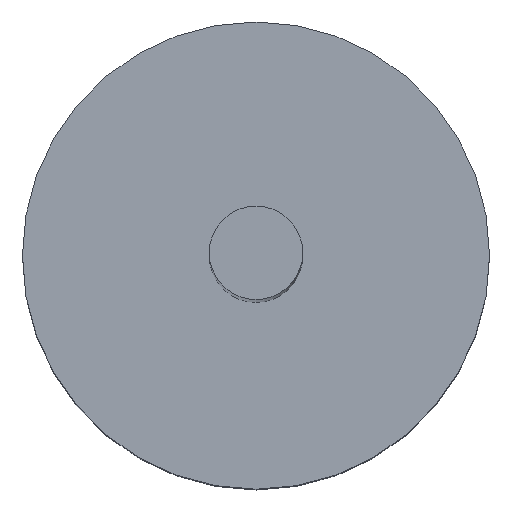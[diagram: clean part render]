
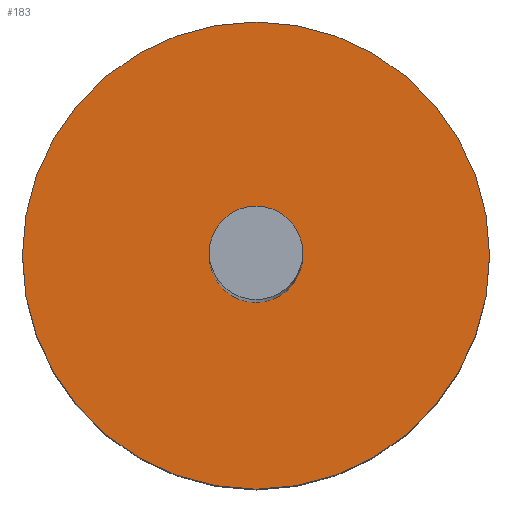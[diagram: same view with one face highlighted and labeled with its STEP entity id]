
A CAD part, top view. The second image highlights one B-rep face of the part: STEP entity #183.
In plain terms, the highlighted planar face has unit normal (0, 0, 1).
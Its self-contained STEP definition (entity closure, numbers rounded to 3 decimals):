
#183=ADVANCED_FACE('',(#205),#197,.T.);
#197=PLANE('',#321);
#205=FACE_OUTER_BOUND('',#221,.T.);
#221=EDGE_LOOP('',(#249));
#249=ORIENTED_EDGE('',*,*,#285,.F.);
#271=VERTEX_POINT('',#421);
#285=EDGE_CURVE('',#271,#271,#299,.T.);
#299=CIRCLE('',#319,4.);
#319=AXIS2_PLACEMENT_3D('',#420,#362,#363);
#321=AXIS2_PLACEMENT_3D('',#423,#366,#367);
#362=DIRECTION('',(0.,0.,-1.));
#363=DIRECTION('',(1.,0.,0.));
#366=DIRECTION('',(0.,0.,1.));
#367=DIRECTION('',(-1.,0.,0.));
#420=CARTESIAN_POINT('',(0.,0.,6.9));
#421=CARTESIAN_POINT('',(4.,0.,6.9));
#423=CARTESIAN_POINT('',(0.,1.5,6.9));
